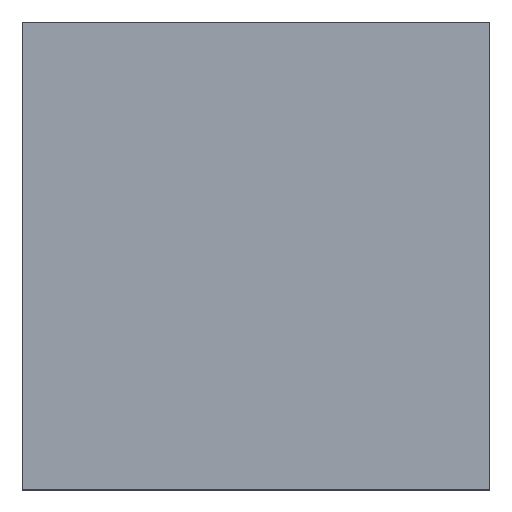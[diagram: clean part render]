
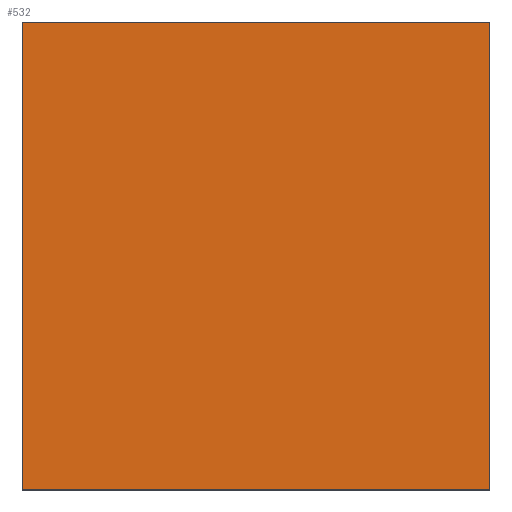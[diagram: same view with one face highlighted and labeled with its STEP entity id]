
A CAD part, top view. The second image highlights one B-rep face of the part: STEP entity #532.
In plain terms, the highlighted planar face has unit normal (0, 0, 1).
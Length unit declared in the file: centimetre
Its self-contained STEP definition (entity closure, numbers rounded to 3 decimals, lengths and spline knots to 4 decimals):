
#16 = EDGE_CURVE ( 'NONE', #270, #123, #511, .T. ) ;
#21 = CARTESIAN_POINT ( 'NONE',  ( 0., 1000., 1000. ) ) ;
#54 = DIRECTION ( 'NONE',  ( -1., 0., 0. ) ) ;
#58 = DIRECTION ( 'NONE',  ( 0., 0., 1. ) ) ;
#66 = DIRECTION ( 'NONE',  ( 1., 0., 0. ) ) ;
#79 = EDGE_CURVE ( 'NONE', #123, #298, #187, .T. ) ;
#85 = EDGE_LOOP ( 'NONE', ( #121, #143, #345, #296 ) ) ;
#121 = ORIENTED_EDGE ( 'NONE', *, *, #79, .T. ) ;
#123 = VERTEX_POINT ( 'NONE', #21 ) ;
#125 = VECTOR ( 'NONE', #177, 100. ) ;
#127 = VECTOR ( 'NONE', #536, 100. ) ;
#143 = ORIENTED_EDGE ( 'NONE', *, *, #242, .T. ) ;
#177 = DIRECTION ( 'NONE',  ( 0., -1., 0. ) ) ;
#187 = LINE ( 'NONE', #224, #125 ) ;
#204 = LINE ( 'NONE', #207, #127 ) ;
#207 = CARTESIAN_POINT ( 'NONE',  ( 0., 0., 1000. ) ) ;
#224 = CARTESIAN_POINT ( 'NONE',  ( 0., 1000., 1000. ) ) ;
#242 = EDGE_CURVE ( 'NONE', #298, #343, #204, .T. ) ;
#270 = VERTEX_POINT ( 'NONE', #371 ) ;
#296 = ORIENTED_EDGE ( 'NONE', *, *, #16, .T. ) ;
#298 = VERTEX_POINT ( 'NONE', #494 ) ;
#302 = DIRECTION ( 'NONE',  ( 0., 1., 0. ) ) ;
#342 = CARTESIAN_POINT ( 'NONE',  ( 1000., 1000., 1000. ) ) ;
#343 = VERTEX_POINT ( 'NONE', #491 ) ;
#345 = ORIENTED_EDGE ( 'NONE', *, *, #402, .T. ) ;
#350 = CARTESIAN_POINT ( 'NONE',  ( 0., 0., 1000. ) ) ;
#371 = CARTESIAN_POINT ( 'NONE',  ( 1000., 1000., 1000. ) ) ;
#389 = VECTOR ( 'NONE', #302, 100. ) ;
#402 = EDGE_CURVE ( 'NONE', #343, #270, #471, .T. ) ;
#405 = VECTOR ( 'NONE', #54, 100. ) ;
#439 = CARTESIAN_POINT ( 'NONE',  ( 0., 1000., 1000. ) ) ;
#468 = FACE_OUTER_BOUND ( 'NONE', #85, .T. ) ;
#470 = PLANE ( 'NONE',  #489 ) ;
#471 = LINE ( 'NONE', #342, #389 ) ;
#489 = AXIS2_PLACEMENT_3D ( 'NONE', #350, #58, #66 ) ;
#491 = CARTESIAN_POINT ( 'NONE',  ( 1000., 0., 1000. ) ) ;
#494 = CARTESIAN_POINT ( 'NONE',  ( 0., 0., 1000. ) ) ;
#511 = LINE ( 'NONE', #439, #405 ) ;
#532 = ADVANCED_FACE ( 'NONE', ( #468 ), #470, .T. ) ;
#536 = DIRECTION ( 'NONE',  ( 1., 0., 0. ) ) ;
